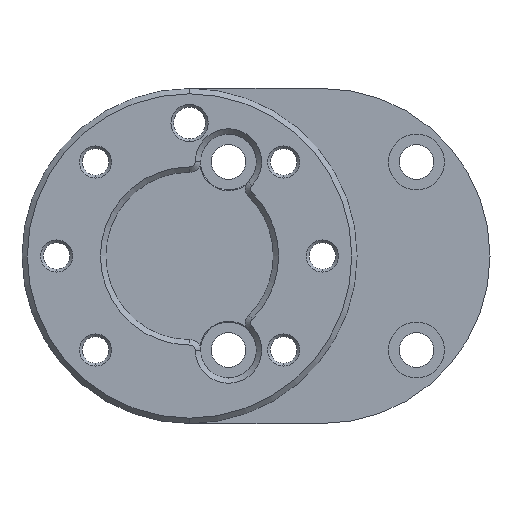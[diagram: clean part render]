
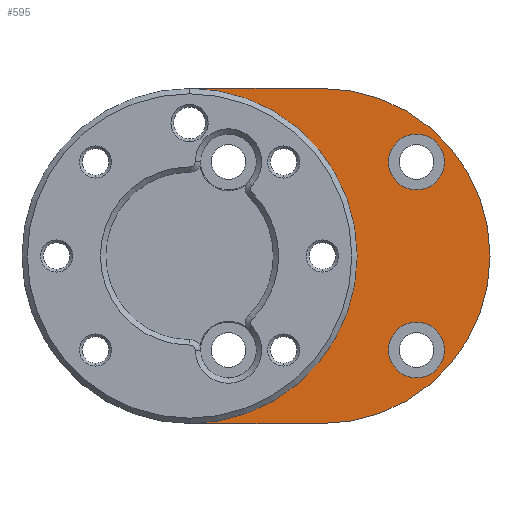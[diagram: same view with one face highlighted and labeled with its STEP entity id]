
A CAD part, front view. The second image highlights one B-rep face of the part: STEP entity #595.
In plain terms, the highlighted planar face has unit normal (0, -1, 0).
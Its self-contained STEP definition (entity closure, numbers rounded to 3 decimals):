
#46 = AXIS2_PLACEMENT_3D ( 'NONE', #493, #2863, #1285 ) ;
#80 = DIRECTION ( 'NONE',  ( 0., -1., 0. ) ) ;
#98 = CARTESIAN_POINT ( 'NONE',  ( 17.678, 0., 22.928 ) ) ;
#111 = DIRECTION ( 'NONE',  ( -1., 0., 0. ) ) ;
#161 = VERTEX_POINT ( 'NONE', #2442 ) ;
#204 = CARTESIAN_POINT ( 'NONE',  ( 0., 0., 0. ) ) ;
#222 = AXIS2_PLACEMENT_3D ( 'NONE', #921, #1186, #2264 ) ;
#240 = EDGE_CURVE ( 'NONE', #279, #2682, #1031, .T. ) ;
#252 = EDGE_LOOP ( 'NONE', ( #1953, #3368, #1760, #1036 ) ) ;
#262 = EDGE_CURVE ( 'NONE', #2736, #2374, #2011, .T. ) ;
#270 = CARTESIAN_POINT ( 'NONE',  ( -25., 0., 31.5 ) ) ;
#279 = VERTEX_POINT ( 'NONE', #3093 ) ;
#315 = CARTESIAN_POINT ( 'NONE',  ( 17.678, 0., -22.928 ) ) ;
#326 = ORIENTED_EDGE ( 'NONE', *, *, #262, .T. ) ;
#383 = CARTESIAN_POINT ( 'NONE',  ( 17.678, 0., -12.428 ) ) ;
#399 = LINE ( 'NONE', #1145, #3167 ) ;
#466 = CARTESIAN_POINT ( 'NONE',  ( 17.678, 0., 17.678 ) ) ;
#476 = DIRECTION ( 'NONE',  ( 0., 0., 1. ) ) ;
#480 = PLANE ( 'NONE',  #46 ) ;
#484 = VECTOR ( 'NONE', #884, 1000. ) ;
#493 = CARTESIAN_POINT ( 'NONE',  ( 0., 0., 0. ) ) ;
#581 = EDGE_CURVE ( 'NONE', #2682, #279, #1683, .T. ) ;
#595 = ADVANCED_FACE ( 'NONE', ( #3427, #783, #3300 ), #480, .F. ) ;
#715 = ORIENTED_EDGE ( 'NONE', *, *, #581, .T. ) ;
#773 = DIRECTION ( 'NONE',  ( 0., 1., 0. ) ) ;
#783 = FACE_BOUND ( 'NONE', #2367, .T. ) ;
#811 = CIRCLE ( 'NONE', #2524, 5.25 ) ;
#884 = DIRECTION ( 'NONE',  ( 1., 0., 0. ) ) ;
#921 = CARTESIAN_POINT ( 'NONE',  ( 17.678, 0., -17.678 ) ) ;
#1020 = DIRECTION ( 'NONE',  ( 0., 1., 0. ) ) ;
#1031 = CIRCLE ( 'NONE', #3311, 5.25 ) ;
#1036 = ORIENTED_EDGE ( 'NONE', *, *, #1794, .F. ) ;
#1065 = VERTEX_POINT ( 'NONE', #1883 ) ;
#1145 = CARTESIAN_POINT ( 'NONE',  ( 0., 0., -31.5 ) ) ;
#1176 = EDGE_CURVE ( 'NONE', #2810, #1065, #399, .T. ) ;
#1186 = DIRECTION ( 'NONE',  ( 0., 1., 0. ) ) ;
#1201 = CIRCLE ( 'NONE', #2027, 31.5 ) ;
#1230 = DIRECTION ( 'NONE',  ( 0., 0., 1. ) ) ;
#1285 = DIRECTION ( 'NONE',  ( 0., 0., 1. ) ) ;
#1342 = LINE ( 'NONE', #2730, #484 ) ;
#1386 = EDGE_CURVE ( 'NONE', #161, #2810, #1445, .T. ) ;
#1445 = CIRCLE ( 'NONE', #2080, 31.5 ) ;
#1453 = DIRECTION ( 'NONE',  ( 0., 0., 1. ) ) ;
#1467 = DIRECTION ( 'NONE',  ( 0., 1., 0. ) ) ;
#1683 = CIRCLE ( 'NONE', #2837, 5.25 ) ;
#1689 = EDGE_LOOP ( 'NONE', ( #2583, #326 ) ) ;
#1760 = ORIENTED_EDGE ( 'NONE', *, *, #1386, .F. ) ;
#1794 = EDGE_CURVE ( 'NONE', #3140, #161, #1342, .T. ) ;
#1795 = DIRECTION ( 'NONE',  ( 0., 0., 1. ) ) ;
#1883 = CARTESIAN_POINT ( 'NONE',  ( -25., 0., -31.5 ) ) ;
#1913 = DIRECTION ( 'NONE',  ( 0., 0., -1. ) ) ;
#1953 = ORIENTED_EDGE ( 'NONE', *, *, #3302, .F. ) ;
#2011 = CIRCLE ( 'NONE', #222, 5.25 ) ;
#2027 = AXIS2_PLACEMENT_3D ( 'NONE', #3268, #80, #1913 ) ;
#2080 = AXIS2_PLACEMENT_3D ( 'NONE', #204, #1020, #476 ) ;
#2221 = CARTESIAN_POINT ( 'NONE',  ( 0., 0., -31.5 ) ) ;
#2230 = CARTESIAN_POINT ( 'NONE',  ( 17.678, 0., 17.678 ) ) ;
#2264 = DIRECTION ( 'NONE',  ( 0., 0., 1. ) ) ;
#2367 = EDGE_LOOP ( 'NONE', ( #2517, #715 ) ) ;
#2374 = VERTEX_POINT ( 'NONE', #315 ) ;
#2442 = CARTESIAN_POINT ( 'NONE',  ( 0., 0., 31.5 ) ) ;
#2517 = ORIENTED_EDGE ( 'NONE', *, *, #240, .T. ) ;
#2524 = AXIS2_PLACEMENT_3D ( 'NONE', #3385, #2827, #1230 ) ;
#2583 = ORIENTED_EDGE ( 'NONE', *, *, #2597, .T. ) ;
#2597 = EDGE_CURVE ( 'NONE', #2374, #2736, #811, .T. ) ;
#2682 = VERTEX_POINT ( 'NONE', #98 ) ;
#2730 = CARTESIAN_POINT ( 'NONE',  ( 0., 0., 31.5 ) ) ;
#2736 = VERTEX_POINT ( 'NONE', #383 ) ;
#2810 = VERTEX_POINT ( 'NONE', #2221 ) ;
#2827 = DIRECTION ( 'NONE',  ( 0., 1., 0. ) ) ;
#2837 = AXIS2_PLACEMENT_3D ( 'NONE', #466, #773, #1795 ) ;
#2863 = DIRECTION ( 'NONE',  ( 0., 1., 0. ) ) ;
#3093 = CARTESIAN_POINT ( 'NONE',  ( 17.678, 0., 12.428 ) ) ;
#3140 = VERTEX_POINT ( 'NONE', #270 ) ;
#3167 = VECTOR ( 'NONE', #111, 1000. ) ;
#3268 = CARTESIAN_POINT ( 'NONE',  ( -25., 0., 0. ) ) ;
#3300 = FACE_OUTER_BOUND ( 'NONE', #252, .T. ) ;
#3302 = EDGE_CURVE ( 'NONE', #1065, #3140, #1201, .T. ) ;
#3311 = AXIS2_PLACEMENT_3D ( 'NONE', #2230, #1467, #1453 ) ;
#3368 = ORIENTED_EDGE ( 'NONE', *, *, #1176, .F. ) ;
#3385 = CARTESIAN_POINT ( 'NONE',  ( 17.678, 0., -17.678 ) ) ;
#3427 = FACE_BOUND ( 'NONE', #1689, .T. ) ;
